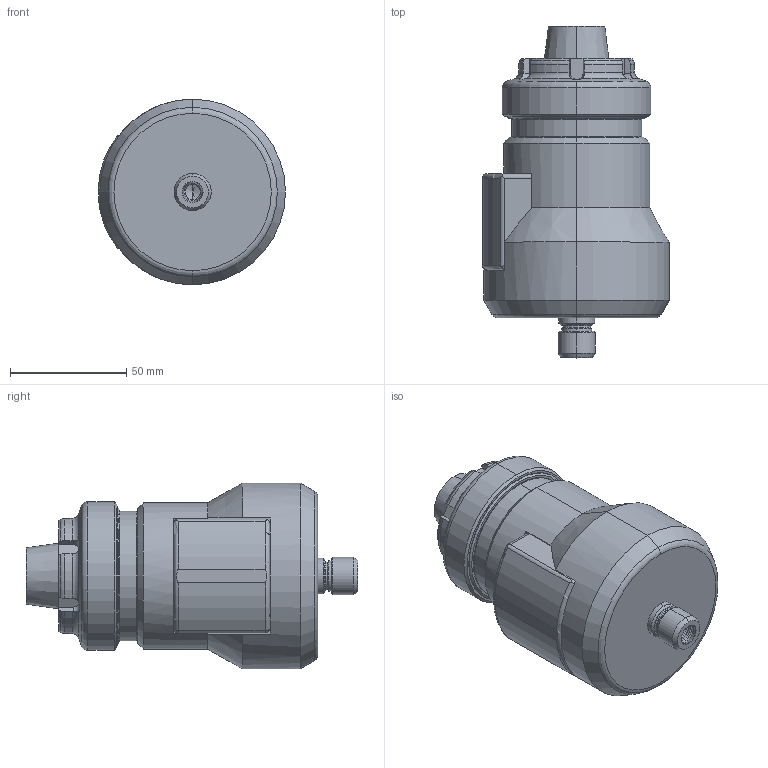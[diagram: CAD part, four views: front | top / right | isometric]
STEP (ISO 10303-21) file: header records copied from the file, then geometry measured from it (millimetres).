
FILE_DESCRIPTION (( 'STEP AP214' ), '1' );
FILE_NAME ('TJS-HPC-ER32-Detail.STEP', '2017-06-14T12:05:25', ( '' ), ( '' ), 'SwSTEP 2.0', 'SolidWorks 2015', '' );
FILE_SCHEMA (( 'AUTOMOTIVE_DESIGN' ));
Length unit declared in the file: millimetre
Products named in the file (1): TJS-HPC-ER32-Detail
Bounding box: 80.55 x 143.01 x 80 mm (x, y, z)
Volume: 413123.5 mm3; surface area: 42942.8 mm2
Topology: 1 solids, 1 shells, 186 faces, 451 edges, 276 vertices
Faces by surface type: cylinder 61, plane 48, cone 47, torus 28, sphere 2
Entity records: 5719 total; most frequent: CARTESIAN_POINT 1402, DIRECTION 917, ORIENTED_EDGE 890, EDGE_CURVE 445, AXIS2_PLACEMENT_3D 371, VERTEX_POINT 276, EDGE_LOOP 201, ADVANCED_FACE 186
